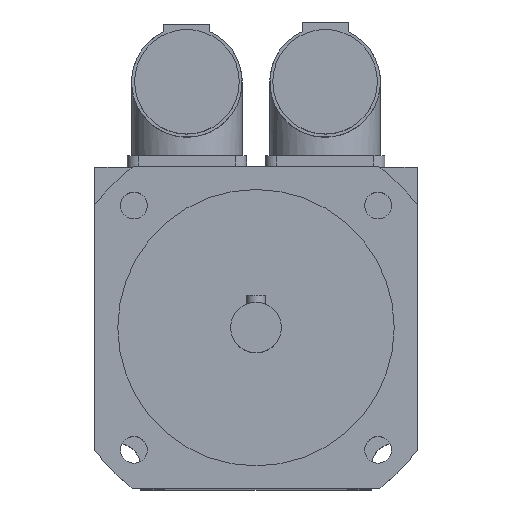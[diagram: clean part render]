
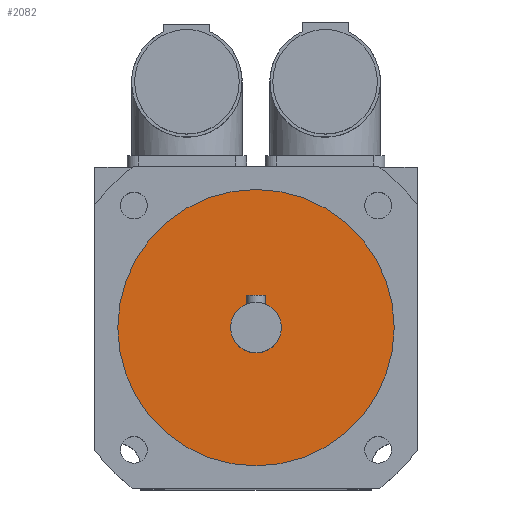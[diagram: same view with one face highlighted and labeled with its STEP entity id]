
A CAD part, top view. The second image highlights one B-rep face of the part: STEP entity #2082.
In plain terms, the highlighted planar face has unit normal (0, 0, 1).
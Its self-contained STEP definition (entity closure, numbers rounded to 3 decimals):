
#36=FACE_BOUND('',#359,.T.);
#61=CIRCLE('',#2206,5.5);
#62=CIRCLE('',#2209,30.);
#234=FACE_OUTER_BOUND('',#358,.T.);
#358=EDGE_LOOP('',(#1420));
#359=EDGE_LOOP('',(#1421));
#878=VERTEX_POINT('',#3179);
#879=VERTEX_POINT('',#3183);
#1092=EDGE_CURVE('',#878,#878,#61,.T.);
#1093=EDGE_CURVE('',#879,#879,#62,.T.);
#1420=ORIENTED_EDGE('',*,*,#1093,.T.);
#1421=ORIENTED_EDGE('',*,*,#1092,.T.);
#2019=PLANE('',#2211);
#2082=ADVANCED_FACE('',(#234,#36),#2019,.T.);
#2206=AXIS2_PLACEMENT_3D('',#3180,#2468,#2469);
#2209=AXIS2_PLACEMENT_3D('',#3184,#2474,#2475);
#2211=AXIS2_PLACEMENT_3D('',#3187,#2478,#2479);
#2468=DIRECTION('center_axis',(0.,0.,-1.));
#2469=DIRECTION('ref_axis',(-1.,0.,0.));
#2474=DIRECTION('center_axis',(0.,0.,1.));
#2475=DIRECTION('ref_axis',(-1.,0.,0.));
#2478=DIRECTION('center_axis',(0.,0.,1.));
#2479=DIRECTION('ref_axis',(1.,0.,0.));
#3179=CARTESIAN_POINT('',(5.5,0.,108.));
#3180=CARTESIAN_POINT('Origin',(0.,0.,108.));
#3183=CARTESIAN_POINT('',(30.,0.,108.));
#3184=CARTESIAN_POINT('Origin',(0.,0.,108.));
#3187=CARTESIAN_POINT('Origin',(0.,0.,
108.));
